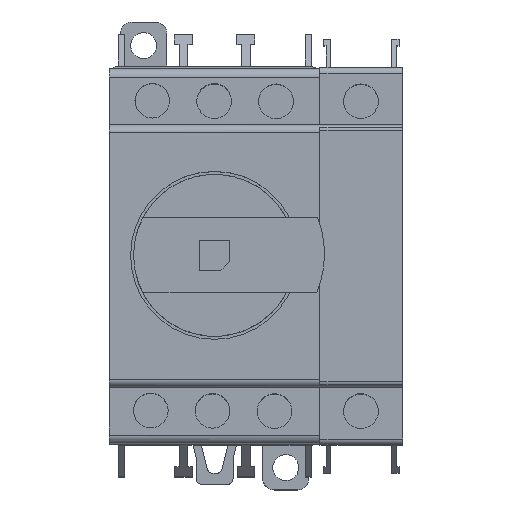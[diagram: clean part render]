
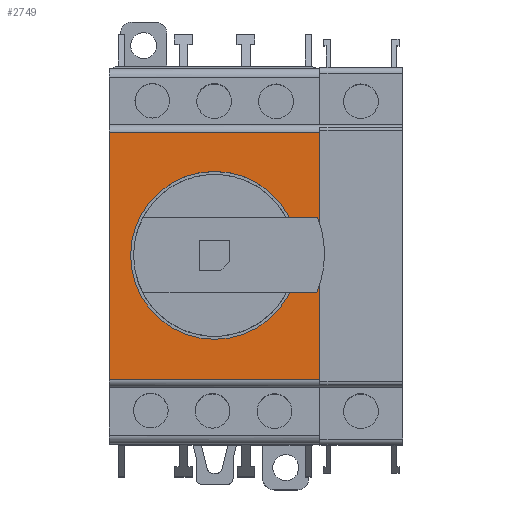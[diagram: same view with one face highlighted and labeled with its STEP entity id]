
A CAD part, top view. The second image highlights one B-rep face of the part: STEP entity #2749.
In plain terms, the highlighted planar face has unit normal (0, 0, 1).
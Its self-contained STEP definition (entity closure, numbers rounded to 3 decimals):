
#87 = FACE_OUTER_BOUND ( 'NONE', #9058, .T. ) ;
#181 = ORIENTED_EDGE ( 'NONE', *, *, #1576, .F. ) ;
#331 = CARTESIAN_POINT ( 'NONE',  ( 18.212, -21.486, 63.7 ) ) ;
#500 = VECTOR ( 'NONE', #10442, 1000. ) ;
#580 = EDGE_LOOP ( 'NONE', ( #6383 ) ) ;
#956 = CARTESIAN_POINT ( 'NONE',  ( 14.503, 0.001, 63.7 ) ) ;
#1064 = CARTESIAN_POINT ( 'NONE',  ( 18.212, -21.486, 63.7 ) ) ;
#1576 = EDGE_CURVE ( 'NONE', #5563, #3105, #4689, .T. ) ;
#1613 = VECTOR ( 'NONE', #6754, 1000. ) ;
#2068 = CARTESIAN_POINT ( 'NONE',  ( 18.212, 21.281, 63.7 ) ) ;
#2231 = CARTESIAN_POINT ( 'NONE',  ( 18.212, 21.281, 63.7 ) ) ;
#2510 = CARTESIAN_POINT ( 'NONE',  ( -18.212, -21.486, 63.7 ) ) ;
#2749 = ADVANCED_FACE ( 'NONE', ( #6663, #87 ), #3146, .T. ) ;
#2937 = ORIENTED_EDGE ( 'NONE', *, *, #5704, .F. ) ;
#3014 = LINE ( 'NONE', #2068, #500 ) ;
#3059 = DIRECTION ( 'NONE',  ( 0., 1., 0. ) ) ;
#3105 = VERTEX_POINT ( 'NONE', #6495 ) ;
#3146 = PLANE ( 'NONE',  #5132 ) ;
#3700 = EDGE_CURVE ( 'NONE', #11246, #3105, #3014, .T. ) ;
#3912 = CIRCLE ( 'NONE', #4019, 14.524 ) ;
#4019 = AXIS2_PLACEMENT_3D ( 'NONE', #6664, #6751, #6707 ) ;
#4689 = LINE ( 'NONE', #11490, #1613 ) ;
#4848 = DIRECTION ( 'NONE',  ( -1., 0., 0. ) ) ;
#5132 = AXIS2_PLACEMENT_3D ( 'NONE', #331, #7788, #9647 ) ;
#5563 = VERTEX_POINT ( 'NONE', #2510 ) ;
#5584 = ORIENTED_EDGE ( 'NONE', *, *, #3700, .T. ) ;
#5704 = EDGE_CURVE ( 'NONE', #6794, #5563, #8022, .T. ) ;
#6383 = ORIENTED_EDGE ( 'NONE', *, *, #6539, .F. ) ;
#6435 = CARTESIAN_POINT ( 'NONE',  ( 18.212, -21.486, 63.7 ) ) ;
#6495 = CARTESIAN_POINT ( 'NONE',  ( -18.212, 21.281, 63.7 ) ) ;
#6539 = EDGE_CURVE ( 'NONE', #11459, #11459, #3912, .T. ) ;
#6589 = EDGE_CURVE ( 'NONE', #6794, #11246, #10873, .T. ) ;
#6663 = FACE_BOUND ( 'NONE', #580, .T. ) ;
#6664 = CARTESIAN_POINT ( 'NONE',  ( -0.021, 0.001, 63.7 ) ) ;
#6707 = DIRECTION ( 'NONE',  ( 1., 0., 0. ) ) ;
#6751 = DIRECTION ( 'NONE',  ( 0., 0., 1. ) ) ;
#6754 = DIRECTION ( 'NONE',  ( 0., 1., 0. ) ) ;
#6794 = VERTEX_POINT ( 'NONE', #1064 ) ;
#7104 = ORIENTED_EDGE ( 'NONE', *, *, #6589, .T. ) ;
#7700 = CARTESIAN_POINT ( 'NONE',  ( 18.212, -21.486, 63.7 ) ) ;
#7788 = DIRECTION ( 'NONE',  ( 0., 0., 1. ) ) ;
#8022 = LINE ( 'NONE', #6435, #9760 ) ;
#9058 = EDGE_LOOP ( 'NONE', ( #7104, #5584, #181, #2937 ) ) ;
#9647 = DIRECTION ( 'NONE',  ( 0., -1., 0. ) ) ;
#9760 = VECTOR ( 'NONE', #4848, 1000. ) ;
#10439 = VECTOR ( 'NONE', #3059, 1000. ) ;
#10442 = DIRECTION ( 'NONE',  ( -1., 0., 0. ) ) ;
#10873 = LINE ( 'NONE', #7700, #10439 ) ;
#11246 = VERTEX_POINT ( 'NONE', #2231 ) ;
#11459 = VERTEX_POINT ( 'NONE', #956 ) ;
#11490 = CARTESIAN_POINT ( 'NONE',  ( -18.212, -21.486, 63.7 ) ) ;
